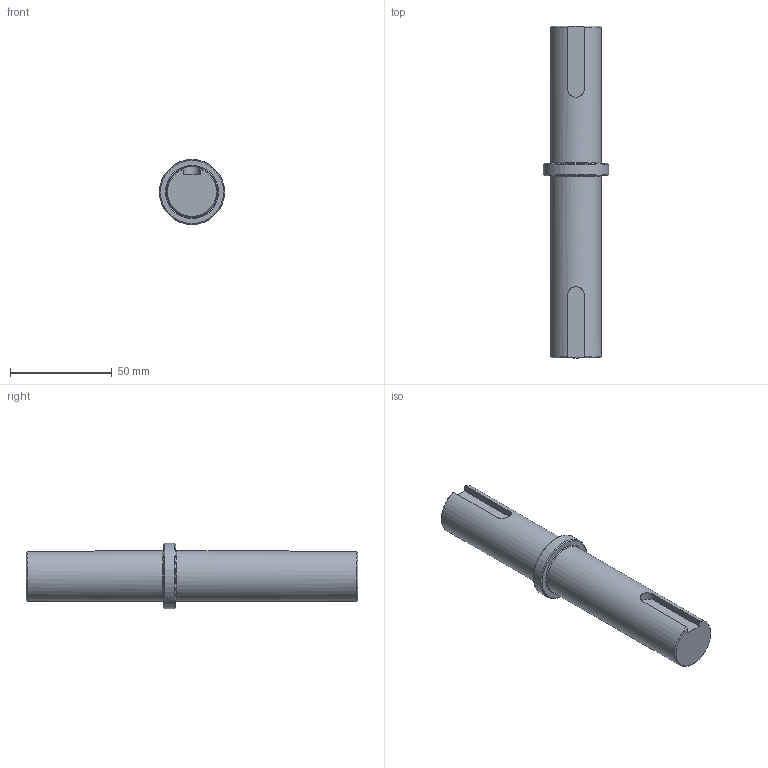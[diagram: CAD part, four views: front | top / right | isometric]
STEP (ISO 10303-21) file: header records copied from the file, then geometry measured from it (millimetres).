
FILE_DESCRIPTION(/* description */ (''),/* implementation_level */ '2;1');
FILE_NAME(/* name */ 'YR01.02.00.005-01_Полуось приводная.stp',/* time_stamp */ '2025-02-06T16:58:09+03:00',/* author */ (''),/* organization */ (''),/* preprocessor_version */ 'ST-DEVELOPER v18.1',/* originating_system */ 'SIEMENS PLM Software NX 1973',/* authorisation */ '');
FILE_SCHEMA (('AUTOMOTIVE_DESIGN { 1 0 10303 214 3 1 1 1 }'));
Length unit declared in the file: millimetre
Products named in the file (1): wp_YR01.02.00.005-01
Bounding box: 32 x 163 x 32 mm (x, y, z)
Volume: 79789.5 mm3; surface area: 14843.7 mm2
Topology: 1 solids, 1 shells, 21 faces, 49 edges, 32 vertices
Faces by surface type: plane 10, cylinder 5, cone 4, torus 2
Full cylindrical faces by diameter (mm): 25 x2, 32 x1
Entity records: 614 total; most frequent: CARTESIAN_POINT 160, DIRECTION 90, ORIENTED_EDGE 76, EDGE_CURVE 38, AXIS2_PLACEMENT_3D 36, EDGE_LOOP 30, VERTEX_POINT 28, ADVANCED_FACE 21
